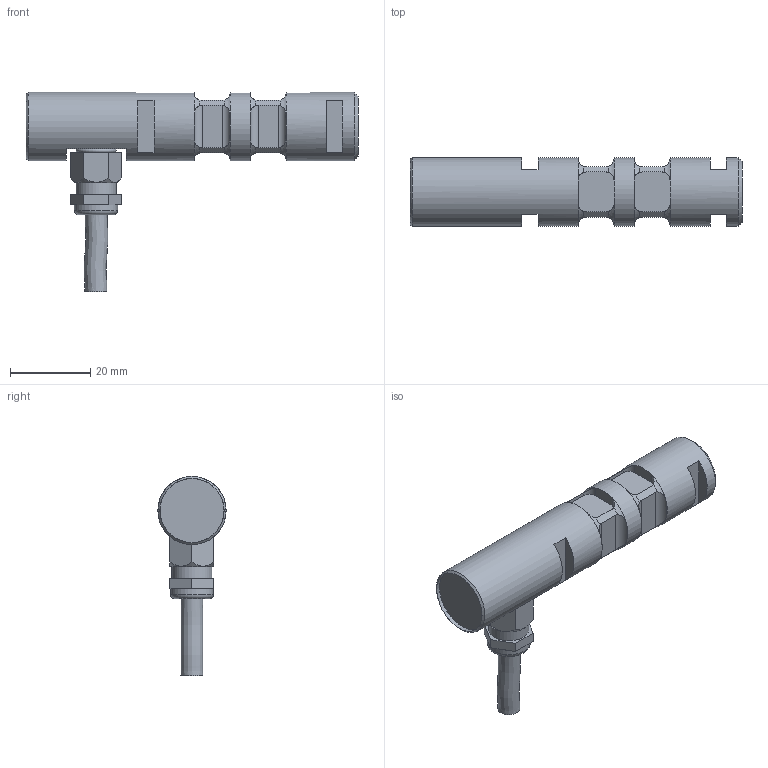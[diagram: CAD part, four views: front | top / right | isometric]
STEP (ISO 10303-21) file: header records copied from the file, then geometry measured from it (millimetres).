
FILE_DESCRIPTION(/* description */ ('Alibre Inc.'),/* implementation_level */ '2;1');
FILE_NAME(/* name */ 'export-E7FD0670-F7B5-4F38-AC3D-273364DA50A3',/* time_stamp */ '2024-04-04T09:27:47+02:00',/* author */ (''),/* organization */ (''),/* preprocessor_version */ 'ST-DEVELOPER v17',/* originating_system */ 'Alibre',/* authorisation */ '');
FILE_SCHEMA (('CONFIG_CONTROL_DESIGN'));
Length unit declared in the file: centimetre
Bounding box: 83 x 17.05 x 49.78 mm (x, y, z)
Volume: 17976.3 mm3; surface area: 7172.6 mm2
Topology: 4 solids, 4 shells, 139 faces, 326 edges, 204 vertices
Faces by surface type: plane 72, cylinder 42, torus 19, cone 5, bspline 1
Full cylindrical faces by diameter (mm): 5 x1, 5.5 x1, 7 x1, 8 x1, 10 x1, 10.8 x1, 16 x1, 17.05 x3
Entity records: 4646 total; most frequent: CARTESIAN_POINT 1367, ORIENTED_EDGE 600, DIRECTION 419, EDGE_CURVE 300, VERTEX_POINT 198, AXIS2_PLACEMENT_3D 181, FACE_BOUND 170, EDGE_LOOP 169
